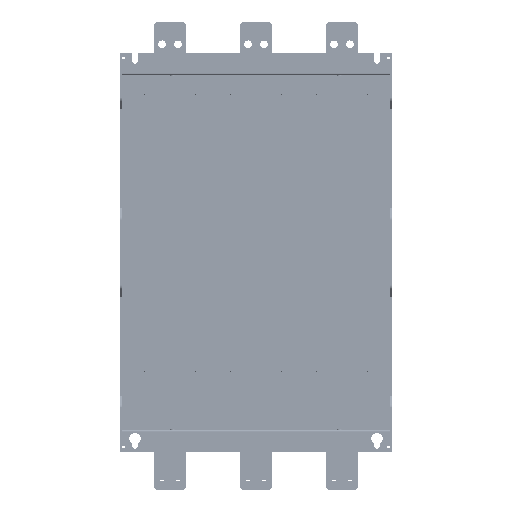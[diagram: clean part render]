
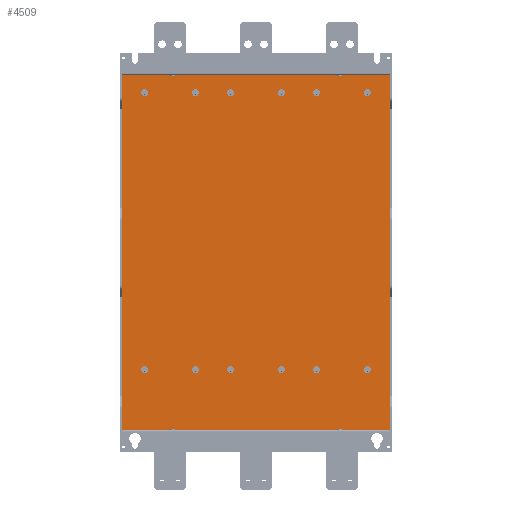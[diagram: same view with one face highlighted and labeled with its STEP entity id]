
A CAD part, front view. The second image highlights one B-rep face of the part: STEP entity #4509.
In plain terms, the highlighted planar face has unit normal (0, -1, 0).
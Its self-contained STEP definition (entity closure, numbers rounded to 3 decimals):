
#460=DIRECTION('',(1.,0.,0.));
#461=VECTOR('',#460,420.);
#462=CARTESIAN_POINT('',(-210.,0.,-278.2));
#463=LINE('',#462,#461);
#896=DIRECTION('',(0.,0.,1.));
#897=VECTOR('',#896,556.4);
#898=CARTESIAN_POINT('',(210.,0.,-278.2));
#899=LINE('',#898,#897);
#974=CARTESIAN_POINT('',(95.,0.,251.));
#975=DIRECTION('',(0.,-1.,0.));
#976=DIRECTION('',(1.,0.,0.));
#977=AXIS2_PLACEMENT_3D('',#974,#975,#976);
#979=CARTESIAN_POINT('',(95.,0.,251.));
#980=DIRECTION('',(0.,-1.,0.));
#981=DIRECTION('',(-1.,0.,0.));
#982=AXIS2_PLACEMENT_3D('',#979,#980,#981);
#984=CARTESIAN_POINT('',(175.,0.,251.));
#985=DIRECTION('',(0.,-1.,0.));
#986=DIRECTION('',(1.,0.,0.));
#987=AXIS2_PLACEMENT_3D('',#984,#985,#986);
#989=CARTESIAN_POINT('',(175.,0.,251.));
#990=DIRECTION('',(0.,-1.,0.));
#991=DIRECTION('',(-1.,0.,0.));
#992=AXIS2_PLACEMENT_3D('',#989,#990,#991);
#994=CARTESIAN_POINT('',(95.,0.,-184.));
#995=DIRECTION('',(0.,-1.,0.));
#996=DIRECTION('',(1.,0.,0.));
#997=AXIS2_PLACEMENT_3D('',#994,#995,#996);
#999=CARTESIAN_POINT('',(95.,0.,-184.));
#1000=DIRECTION('',(0.,-1.,0.));
#1001=DIRECTION('',(-1.,0.,0.));
#1002=AXIS2_PLACEMENT_3D('',#999,#1000,#1001);
#1004=CARTESIAN_POINT('',(175.,0.,-184.));
#1005=DIRECTION('',(0.,-1.,0.));
#1006=DIRECTION('',(1.,0.,0.));
#1007=AXIS2_PLACEMENT_3D('',#1004,#1005,#1006);
#1009=CARTESIAN_POINT('',(175.,0.,-184.));
#1010=DIRECTION('',(0.,-1.,0.));
#1011=DIRECTION('',(-1.,0.,0.));
#1012=AXIS2_PLACEMENT_3D('',#1009,#1010,#1011);
#1014=CARTESIAN_POINT('',(-40.,0.,251.));
#1015=DIRECTION('',(0.,-1.,0.));
#1016=DIRECTION('',(1.,0.,0.));
#1017=AXIS2_PLACEMENT_3D('',#1014,#1015,#1016);
#1019=CARTESIAN_POINT('',(-40.,0.,251.));
#1020=DIRECTION('',(0.,-1.,0.));
#1021=DIRECTION('',(-1.,0.,0.));
#1022=AXIS2_PLACEMENT_3D('',#1019,#1020,#1021);
#1024=CARTESIAN_POINT('',(40.,0.,251.));
#1025=DIRECTION('',(0.,-1.,0.));
#1026=DIRECTION('',(1.,0.,0.));
#1027=AXIS2_PLACEMENT_3D('',#1024,#1025,#1026);
#1029=CARTESIAN_POINT('',(40.,0.,251.));
#1030=DIRECTION('',(0.,-1.,0.));
#1031=DIRECTION('',(-1.,0.,0.));
#1032=AXIS2_PLACEMENT_3D('',#1029,#1030,#1031);
#1034=CARTESIAN_POINT('',(-40.,0.,-184.));
#1035=DIRECTION('',(0.,-1.,0.));
#1036=DIRECTION('',(1.,0.,0.));
#1037=AXIS2_PLACEMENT_3D('',#1034,#1035,#1036);
#1039=CARTESIAN_POINT('',(-40.,0.,-184.));
#1040=DIRECTION('',(0.,-1.,0.));
#1041=DIRECTION('',(-1.,0.,0.));
#1042=AXIS2_PLACEMENT_3D('',#1039,#1040,#1041);
#1044=CARTESIAN_POINT('',(40.,0.,-184.));
#1045=DIRECTION('',(0.,-1.,0.));
#1046=DIRECTION('',(1.,0.,0.));
#1047=AXIS2_PLACEMENT_3D('',#1044,#1045,#1046);
#1049=CARTESIAN_POINT('',(40.,0.,-184.));
#1050=DIRECTION('',(0.,-1.,0.));
#1051=DIRECTION('',(-1.,0.,0.));
#1052=AXIS2_PLACEMENT_3D('',#1049,#1050,#1051);
#1054=CARTESIAN_POINT('',(-175.,0.,251.));
#1055=DIRECTION('',(0.,-1.,0.));
#1056=DIRECTION('',(1.,0.,0.));
#1057=AXIS2_PLACEMENT_3D('',#1054,#1055,#1056);
#1059=CARTESIAN_POINT('',(-175.,0.,251.));
#1060=DIRECTION('',(0.,-1.,0.));
#1061=DIRECTION('',(-1.,0.,0.));
#1062=AXIS2_PLACEMENT_3D('',#1059,#1060,#1061);
#1064=CARTESIAN_POINT('',(-95.,0.,251.));
#1065=DIRECTION('',(0.,-1.,0.));
#1066=DIRECTION('',(1.,0.,0.));
#1067=AXIS2_PLACEMENT_3D('',#1064,#1065,#1066);
#1069=CARTESIAN_POINT('',(-95.,0.,251.));
#1070=DIRECTION('',(0.,-1.,0.));
#1071=DIRECTION('',(-1.,0.,0.));
#1072=AXIS2_PLACEMENT_3D('',#1069,#1070,#1071);
#1074=CARTESIAN_POINT('',(-175.,0.,-184.));
#1075=DIRECTION('',(0.,-1.,0.));
#1076=DIRECTION('',(1.,0.,0.));
#1077=AXIS2_PLACEMENT_3D('',#1074,#1075,#1076);
#1079=CARTESIAN_POINT('',(-175.,0.,-184.));
#1080=DIRECTION('',(0.,-1.,0.));
#1081=DIRECTION('',(-1.,0.,0.));
#1082=AXIS2_PLACEMENT_3D('',#1079,#1080,#1081);
#1084=CARTESIAN_POINT('',(-95.,0.,-184.));
#1085=DIRECTION('',(0.,-1.,0.));
#1086=DIRECTION('',(1.,0.,0.));
#1087=AXIS2_PLACEMENT_3D('',#1084,#1085,#1086);
#1089=CARTESIAN_POINT('',(-95.,0.,-184.));
#1090=DIRECTION('',(0.,-1.,0.));
#1091=DIRECTION('',(-1.,0.,0.));
#1092=AXIS2_PLACEMENT_3D('',#1089,#1090,#1091);
#1098=DIRECTION('',(0.,0.,-1.));
#1099=VECTOR('',#1098,556.4);
#1100=CARTESIAN_POINT('',(-210.,0.,278.2));
#1101=LINE('',#1100,#1099);
#1172=DIRECTION('',(-1.,0.,0.));
#1173=VECTOR('',#1172,420.);
#1174=CARTESIAN_POINT('',(210.,0.,278.2));
#1175=LINE('',#1174,#1173);
#2278=CARTESIAN_POINT('',(-210.,0.,-278.2));
#2279=VERTEX_POINT('',#2278);
#2280=CARTESIAN_POINT('',(210.,0.,-278.2));
#2281=VERTEX_POINT('',#2280);
#2352=CARTESIAN_POINT('',(-210.,0.,278.2));
#2353=VERTEX_POINT('',#2352);
#2370=CARTESIAN_POINT('',(210.,0.,278.2));
#2371=VERTEX_POINT('',#2370);
#2444=CARTESIAN_POINT('',(99.375,0.,251.));
#2445=CARTESIAN_POINT('',(90.625,0.,251.));
#2446=VERTEX_POINT('',#2444);
#2447=VERTEX_POINT('',#2445);
#2448=CARTESIAN_POINT('',(179.375,0.,251.));
#2449=CARTESIAN_POINT('',(170.625,0.,251.));
#2450=VERTEX_POINT('',#2448);
#2451=VERTEX_POINT('',#2449);
#2452=CARTESIAN_POINT('',(99.375,0.,-184.));
#2453=CARTESIAN_POINT('',(90.625,0.,-184.));
#2454=VERTEX_POINT('',#2452);
#2455=VERTEX_POINT('',#2453);
#2456=CARTESIAN_POINT('',(179.375,0.,-184.));
#2457=CARTESIAN_POINT('',(170.625,0.,-184.));
#2458=VERTEX_POINT('',#2456);
#2459=VERTEX_POINT('',#2457);
#2460=CARTESIAN_POINT('',(-35.625,0.,251.));
#2461=CARTESIAN_POINT('',(-44.375,0.,251.));
#2462=VERTEX_POINT('',#2460);
#2463=VERTEX_POINT('',#2461);
#2464=CARTESIAN_POINT('',(44.375,0.,251.));
#2465=CARTESIAN_POINT('',(35.625,0.,251.));
#2466=VERTEX_POINT('',#2464);
#2467=VERTEX_POINT('',#2465);
#2468=CARTESIAN_POINT('',(-35.625,0.,-184.));
#2469=CARTESIAN_POINT('',(-44.375,0.,-184.));
#2470=VERTEX_POINT('',#2468);
#2471=VERTEX_POINT('',#2469);
#2472=CARTESIAN_POINT('',(44.375,0.,-184.));
#2473=CARTESIAN_POINT('',(35.625,0.,-184.));
#2474=VERTEX_POINT('',#2472);
#2475=VERTEX_POINT('',#2473);
#2476=CARTESIAN_POINT('',(-170.625,0.,251.));
#2477=CARTESIAN_POINT('',(-179.375,0.,251.));
#2478=VERTEX_POINT('',#2476);
#2479=VERTEX_POINT('',#2477);
#2480=CARTESIAN_POINT('',(-90.625,0.,251.));
#2481=CARTESIAN_POINT('',(-99.375,0.,251.));
#2482=VERTEX_POINT('',#2480);
#2483=VERTEX_POINT('',#2481);
#2484=CARTESIAN_POINT('',(-170.625,0.,-184.));
#2485=CARTESIAN_POINT('',(-179.375,0.,-184.));
#2486=VERTEX_POINT('',#2484);
#2487=VERTEX_POINT('',#2485);
#2488=CARTESIAN_POINT('',(-90.625,0.,-184.));
#2489=CARTESIAN_POINT('',(-99.375,0.,-184.));
#2490=VERTEX_POINT('',#2488);
#2491=VERTEX_POINT('',#2489);
#4424=CARTESIAN_POINT('',(214.5,0.,-280.7));
#4425=DIRECTION('',(0.,1.,0.));
#4426=DIRECTION('',(0.,0.,1.));
#4427=AXIS2_PLACEMENT_3D('',#4424,#4425,#4426);
#4428=PLANE('',#4427);
#4429=ORIENTED_EDGE('',*,*,#4317,.F.);
#4430=ORIENTED_EDGE('',*,*,#3323,.F.);
#4432=ORIENTED_EDGE('',*,*,#4431,.F.);
#4434=ORIENTED_EDGE('',*,*,#4433,.F.);
#4435=EDGE_LOOP('',(#4429,#4430,#4432,#4434));
#4436=FACE_OUTER_BOUND('',#4435,.F.);
#4438=ORIENTED_EDGE('',*,*,#4437,.T.);
#4440=ORIENTED_EDGE('',*,*,#4439,.T.);
#4441=EDGE_LOOP('',(#4438,#4440));
#4442=FACE_BOUND('',#4441,.F.);
#4444=ORIENTED_EDGE('',*,*,#4443,.T.);
#4446=ORIENTED_EDGE('',*,*,#4445,.T.);
#4447=EDGE_LOOP('',(#4444,#4446));
#4448=FACE_BOUND('',#4447,.F.);
#4450=ORIENTED_EDGE('',*,*,#4449,.T.);
#4452=ORIENTED_EDGE('',*,*,#4451,.T.);
#4453=EDGE_LOOP('',(#4450,#4452));
#4454=FACE_BOUND('',#4453,.F.);
#4456=ORIENTED_EDGE('',*,*,#4455,.T.);
#4458=ORIENTED_EDGE('',*,*,#4457,.T.);
#4459=EDGE_LOOP('',(#4456,#4458));
#4460=FACE_BOUND('',#4459,.F.);
#4462=ORIENTED_EDGE('',*,*,#4461,.T.);
#4464=ORIENTED_EDGE('',*,*,#4463,.T.);
#4465=EDGE_LOOP('',(#4462,#4464));
#4466=FACE_BOUND('',#4465,.F.);
#4468=ORIENTED_EDGE('',*,*,#4467,.T.);
#4470=ORIENTED_EDGE('',*,*,#4469,.T.);
#4471=EDGE_LOOP('',(#4468,#4470));
#4472=FACE_BOUND('',#4471,.F.);
#4474=ORIENTED_EDGE('',*,*,#4473,.T.);
#4476=ORIENTED_EDGE('',*,*,#4475,.T.);
#4477=EDGE_LOOP('',(#4474,#4476));
#4478=FACE_BOUND('',#4477,.F.);
#4480=ORIENTED_EDGE('',*,*,#4479,.T.);
#4482=ORIENTED_EDGE('',*,*,#4481,.T.);
#4483=EDGE_LOOP('',(#4480,#4482));
#4484=FACE_BOUND('',#4483,.F.);
#4486=ORIENTED_EDGE('',*,*,#4485,.T.);
#4488=ORIENTED_EDGE('',*,*,#4487,.T.);
#4489=EDGE_LOOP('',(#4486,#4488));
#4490=FACE_BOUND('',#4489,.F.);
#4492=ORIENTED_EDGE('',*,*,#4491,.T.);
#4494=ORIENTED_EDGE('',*,*,#4493,.T.);
#4495=EDGE_LOOP('',(#4492,#4494));
#4496=FACE_BOUND('',#4495,.F.);
#4498=ORIENTED_EDGE('',*,*,#4497,.T.);
#4500=ORIENTED_EDGE('',*,*,#4499,.T.);
#4501=EDGE_LOOP('',(#4498,#4500));
#4502=FACE_BOUND('',#4501,.F.);
#4504=ORIENTED_EDGE('',*,*,#4503,.T.);
#4506=ORIENTED_EDGE('',*,*,#4505,.T.);
#4507=EDGE_LOOP('',(#4504,#4506));
#4508=FACE_BOUND('',#4507,.F.);
#4509=ADVANCED_FACE('',(#4436,#4442,#4448,#4454,#4460,#4466,#4472,#4478,#4484,
#4490,#4496,#4502,#4508),#4428,.F.);
#978=CIRCLE('',#977,4.375);
#983=CIRCLE('',#982,4.375);
#988=CIRCLE('',#987,4.375);
#993=CIRCLE('',#992,4.375);
#998=CIRCLE('',#997,4.375);
#1003=CIRCLE('',#1002,4.375);
#1008=CIRCLE('',#1007,4.375);
#1013=CIRCLE('',#1012,4.375);
#1018=CIRCLE('',#1017,4.375);
#1023=CIRCLE('',#1022,4.375);
#1028=CIRCLE('',#1027,4.375);
#1033=CIRCLE('',#1032,4.375);
#1038=CIRCLE('',#1037,4.375);
#1043=CIRCLE('',#1042,4.375);
#1048=CIRCLE('',#1047,4.375);
#1053=CIRCLE('',#1052,4.375);
#1058=CIRCLE('',#1057,4.375);
#1063=CIRCLE('',#1062,4.375);
#1068=CIRCLE('',#1067,4.375);
#1073=CIRCLE('',#1072,4.375);
#1078=CIRCLE('',#1077,4.375);
#1083=CIRCLE('',#1082,4.375);
#1088=CIRCLE('',#1087,4.375);
#1093=CIRCLE('',#1092,4.375);
#3323=EDGE_CURVE('',#2279,#2281,#463,.T.);
#4317=EDGE_CURVE('',#2281,#2371,#899,.T.);
#4431=EDGE_CURVE('',#2353,#2279,#1101,.T.);
#4433=EDGE_CURVE('',#2371,#2353,#1175,.T.);
#4437=EDGE_CURVE('',#2446,#2447,#978,.T.);
#4439=EDGE_CURVE('',#2447,#2446,#983,.T.);
#4443=EDGE_CURVE('',#2450,#2451,#988,.T.);
#4445=EDGE_CURVE('',#2451,#2450,#993,.T.);
#4449=EDGE_CURVE('',#2454,#2455,#998,.T.);
#4451=EDGE_CURVE('',#2455,#2454,#1003,.T.);
#4455=EDGE_CURVE('',#2458,#2459,#1008,.T.);
#4457=EDGE_CURVE('',#2459,#2458,#1013,.T.);
#4461=EDGE_CURVE('',#2462,#2463,#1018,.T.);
#4463=EDGE_CURVE('',#2463,#2462,#1023,.T.);
#4467=EDGE_CURVE('',#2466,#2467,#1028,.T.);
#4469=EDGE_CURVE('',#2467,#2466,#1033,.T.);
#4473=EDGE_CURVE('',#2470,#2471,#1038,.T.);
#4475=EDGE_CURVE('',#2471,#2470,#1043,.T.);
#4479=EDGE_CURVE('',#2474,#2475,#1048,.T.);
#4481=EDGE_CURVE('',#2475,#2474,#1053,.T.);
#4485=EDGE_CURVE('',#2478,#2479,#1058,.T.);
#4487=EDGE_CURVE('',#2479,#2478,#1063,.T.);
#4491=EDGE_CURVE('',#2482,#2483,#1068,.T.);
#4493=EDGE_CURVE('',#2483,#2482,#1073,.T.);
#4497=EDGE_CURVE('',#2486,#2487,#1078,.T.);
#4499=EDGE_CURVE('',#2487,#2486,#1083,.T.);
#4503=EDGE_CURVE('',#2490,#2491,#1088,.T.);
#4505=EDGE_CURVE('',#2491,#2490,#1093,.T.);
